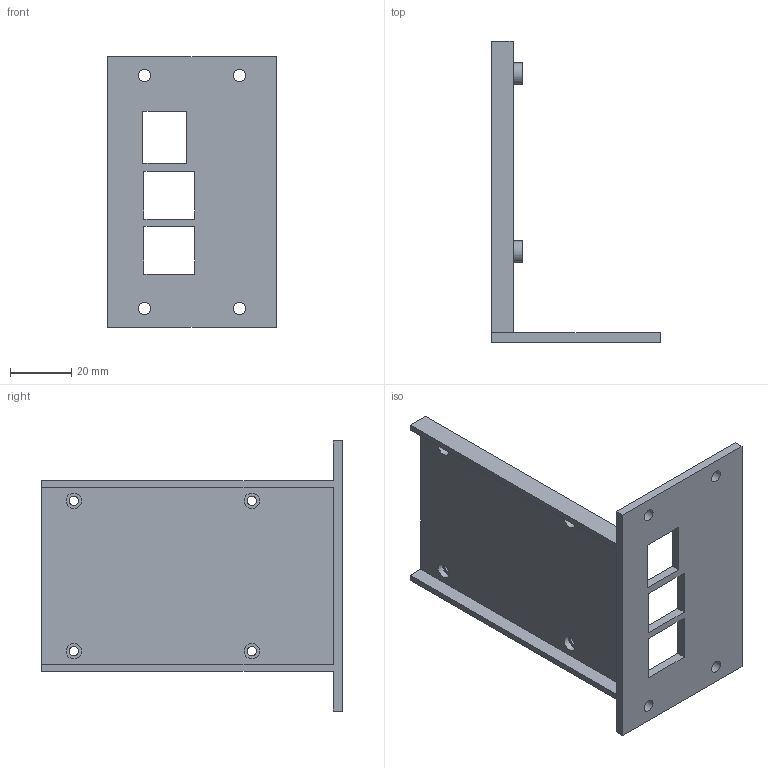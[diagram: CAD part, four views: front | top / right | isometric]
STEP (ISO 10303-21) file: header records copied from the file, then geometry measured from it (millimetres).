
FILE_DESCRIPTION(('FreeCAD Model'),'2;1');
FILE_NAME('Open CASCADE Shape Model','2026-01-10T08:25:57',(''),(''), 'Open CASCADE STEP processor 7.8','FreeCAD','Unknown');
FILE_SCHEMA(('AUTOMOTIVE_DESIGN { 1 0 10303 214 1 1 1 1 }'));
Length unit declared in the file: millimetre
Products named in the file (2): Mount; Mount001
Assembly tree (1 placements, depth 2):
  Mount
    Mount001
Bounding box: 55 x 98 x 88 mm (x, y, z)
Volume: 25995.4 mm3; surface area: 24151.6 mm2
Topology: 1 solids, 1 shells, 50 faces, 120 edges, 80 vertices
Faces by surface type: plane 34, cylinder 16
Full cylindrical faces by diameter (mm): 3 x4, 4 x4, 5 x4, 7 x4
Entity records: 1538 total; most frequent: CARTESIAN_POINT 256, DIRECTION 252, ORIENTED_EDGE 240, EDGE_CURVE 120, AXIS2_PLACEMENT_3D 84, LINE 84, VECTOR 84, FACE_BOUND 80
